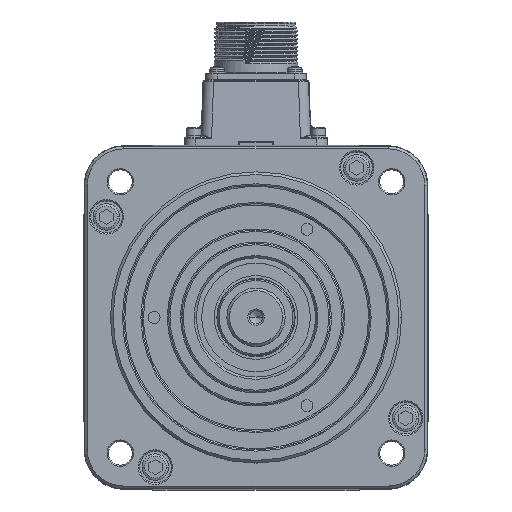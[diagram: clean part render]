
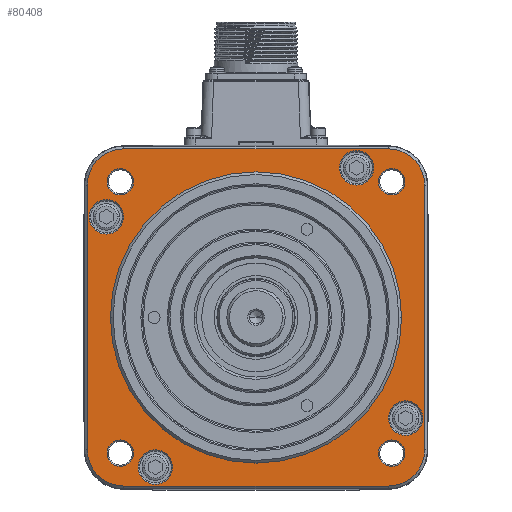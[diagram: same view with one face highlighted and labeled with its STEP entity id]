
A CAD part, top view. The second image highlights one B-rep face of the part: STEP entity #80408.
In plain terms, the highlighted planar face has unit normal (0, 0, 1).
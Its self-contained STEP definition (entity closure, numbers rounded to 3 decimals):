
#20684=DIRECTION('',(0.,1.,0.));
#20685=VECTOR('',#20684,100.);
#20686=CARTESIAN_POINT('',(63.686,-50.,25.));
#20687=LINE('',#20686,#20685);
#20791=CARTESIAN_POINT('',(50.,50.,25.));
#20792=DIRECTION('',(0.,0.,-1.));
#20793=DIRECTION('',(0.,1.,0.));
#20794=AXIS2_PLACEMENT_3D('',#20791,#20792,#20793);
#20796=CARTESIAN_POINT('',(50.,-50.,25.));
#20797=DIRECTION('',(0.,0.,-1.));
#20798=DIRECTION('',(1.,0.,0.));
#20799=AXIS2_PLACEMENT_3D('',#20796,#20797,#20798);
#20801=CARTESIAN_POINT('',(-50.,-50.,25.));
#20802=DIRECTION('',(0.,0.,-1.));
#20803=DIRECTION('',(0.,-1.,0.));
#20804=AXIS2_PLACEMENT_3D('',#20801,#20802,#20803);
#20806=CARTESIAN_POINT('',(-50.,50.,25.));
#20807=DIRECTION('',(0.,0.,-1.));
#20808=DIRECTION('',(-1.,0.,0.));
#20809=AXIS2_PLACEMENT_3D('',#20806,#20807,#20808);
#20811=CARTESIAN_POINT('',(-56.502,37.997,25.));
#20812=DIRECTION('',(0.,0.,1.));
#20813=DIRECTION('',(-1.,0.,0.));
#20814=AXIS2_PLACEMENT_3D('',#20811,#20812,#20813);
#20816=CARTESIAN_POINT('',(-56.502,37.997,25.));
#20817=DIRECTION('',(0.,0.,1.));
#20818=DIRECTION('',(1.,0.,0.));
#20819=AXIS2_PLACEMENT_3D('',#20816,#20817,#20818);
#20821=CARTESIAN_POINT('',(-37.997,-56.502,25.));
#20822=DIRECTION('',(0.,0.,1.));
#20823=DIRECTION('',(-1.,0.,0.));
#20824=AXIS2_PLACEMENT_3D('',#20821,#20822,#20823);
#20826=CARTESIAN_POINT('',(-37.997,-56.502,25.));
#20827=DIRECTION('',(0.,0.,1.));
#20828=DIRECTION('',(1.,0.,0.));
#20829=AXIS2_PLACEMENT_3D('',#20826,#20827,#20828);
#20831=CARTESIAN_POINT('',(0.,0.,25.));
#20832=DIRECTION('',(0.,0.,1.));
#20833=DIRECTION('',(-1.,0.,0.));
#20834=AXIS2_PLACEMENT_3D('',#20831,#20832,#20833);
#20836=CARTESIAN_POINT('',(0.,0.,25.));
#20837=DIRECTION('',(0.,0.,1.));
#20838=DIRECTION('',(1.,0.,0.));
#20839=AXIS2_PLACEMENT_3D('',#20836,#20837,#20838);
#20841=CARTESIAN_POINT('',(-51.265,51.265,25.));
#20842=DIRECTION('',(0.,0.,1.));
#20843=DIRECTION('',(1.,0.,0.));
#20844=AXIS2_PLACEMENT_3D('',#20841,#20842,#20843);
#20846=CARTESIAN_POINT('',(-51.265,51.265,25.));
#20847=DIRECTION('',(0.,0.,1.));
#20848=DIRECTION('',(-1.,0.,0.));
#20849=AXIS2_PLACEMENT_3D('',#20846,#20847,#20848);
#20851=CARTESIAN_POINT('',(-51.265,-51.265,25.));
#20852=DIRECTION('',(0.,0.,1.));
#20853=DIRECTION('',(1.,0.,0.));
#20854=AXIS2_PLACEMENT_3D('',#20851,#20852,#20853);
#20856=CARTESIAN_POINT('',(-51.265,-51.265,25.));
#20857=DIRECTION('',(0.,0.,1.));
#20858=DIRECTION('',(-1.,0.,0.));
#20859=AXIS2_PLACEMENT_3D('',#20856,#20857,#20858);
#20861=CARTESIAN_POINT('',(51.265,-51.265,25.));
#20862=DIRECTION('',(0.,0.,1.));
#20863=DIRECTION('',(1.,0.,0.));
#20864=AXIS2_PLACEMENT_3D('',#20861,#20862,#20863);
#20866=CARTESIAN_POINT('',(51.265,-51.265,25.));
#20867=DIRECTION('',(0.,0.,1.));
#20868=DIRECTION('',(-1.,0.,0.));
#20869=AXIS2_PLACEMENT_3D('',#20866,#20867,#20868);
#20871=CARTESIAN_POINT('',(51.265,51.265,25.));
#20872=DIRECTION('',(0.,0.,1.));
#20873=DIRECTION('',(1.,0.,0.));
#20874=AXIS2_PLACEMENT_3D('',#20871,#20872,#20873);
#20876=CARTESIAN_POINT('',(51.265,51.265,25.));
#20877=DIRECTION('',(0.,0.,1.));
#20878=DIRECTION('',(-1.,0.,0.));
#20879=AXIS2_PLACEMENT_3D('',#20876,#20877,#20878);
#20881=CARTESIAN_POINT('',(37.997,56.502,25.));
#20882=DIRECTION('',(0.,0.,1.));
#20883=DIRECTION('',(-1.,0.,0.));
#20884=AXIS2_PLACEMENT_3D('',#20881,#20882,#20883);
#20886=CARTESIAN_POINT('',(37.997,56.502,25.));
#20887=DIRECTION('',(0.,0.,1.));
#20888=DIRECTION('',(1.,0.,0.));
#20889=AXIS2_PLACEMENT_3D('',#20886,#20887,#20888);
#20891=CARTESIAN_POINT('',(56.502,-37.997,25.));
#20892=DIRECTION('',(0.,0.,1.));
#20893=DIRECTION('',(-1.,0.,0.));
#20894=AXIS2_PLACEMENT_3D('',#20891,#20892,#20893);
#20896=CARTESIAN_POINT('',(56.502,-37.997,25.));
#20897=DIRECTION('',(0.,0.,1.));
#20898=DIRECTION('',(1.,0.,0.));
#20899=AXIS2_PLACEMENT_3D('',#20896,#20897,#20898);
#20901=DIRECTION('',(1.,0.,0.));
#20902=VECTOR('',#20901,100.);
#20903=CARTESIAN_POINT('',(-50.,-63.686,25.));
#20904=LINE('',#20903,#20902);
#21017=DIRECTION('',(0.,-1.,0.));
#21018=VECTOR('',#21017,100.);
#21019=CARTESIAN_POINT('',(-63.686,50.,25.));
#21020=LINE('',#21019,#21018);
#21133=DIRECTION('',(-1.,0.,0.));
#21134=VECTOR('',#21133,100.);
#21135=CARTESIAN_POINT('',(50.,63.686,25.));
#21136=LINE('',#21135,#21134);
#46477=CARTESIAN_POINT('',(63.686,50.,25.));
#46478=VERTEX_POINT('',#46477);
#46479=CARTESIAN_POINT('',(50.,63.686,25.));
#46480=VERTEX_POINT('',#46479);
#46481=CARTESIAN_POINT('',(63.686,-50.,25.));
#46482=VERTEX_POINT('',#46481);
#46483=CARTESIAN_POINT('',(50.,-63.686,25.));
#46484=VERTEX_POINT('',#46483);
#46497=CARTESIAN_POINT('',(56.265,-51.265,25.));
#46498=CARTESIAN_POINT('',(46.265,-51.265,25.));
#46499=VERTEX_POINT('',#46497);
#46500=VERTEX_POINT('',#46498);
#46501=CARTESIAN_POINT('',(-50.,-63.686,25.));
#46502=VERTEX_POINT('',#46501);
#46503=CARTESIAN_POINT('',(-63.686,-50.,25.));
#46504=VERTEX_POINT('',#46503);
#46505=CARTESIAN_POINT('',(-63.686,50.,25.));
#46506=VERTEX_POINT('',#46505);
#46507=CARTESIAN_POINT('',(-50.,63.686,25.));
#46508=VERTEX_POINT('',#46507);
#46509=CARTESIAN_POINT('',(-63.002,37.997,25.));
#46510=CARTESIAN_POINT('',(-50.002,37.997,25.));
#46511=VERTEX_POINT('',#46509);
#46512=VERTEX_POINT('',#46510);
#46513=CARTESIAN_POINT('',(-44.497,-56.502,25.));
#46514=CARTESIAN_POINT('',(-31.497,-56.502,25.));
#46515=VERTEX_POINT('',#46513);
#46516=VERTEX_POINT('',#46514);
#46517=CARTESIAN_POINT('',(-55.,0.,25.));
#46518=CARTESIAN_POINT('',(55.,0.,25.));
#46519=VERTEX_POINT('',#46517);
#46520=VERTEX_POINT('',#46518);
#46521=CARTESIAN_POINT('',(-46.265,51.265,25.));
#46522=CARTESIAN_POINT('',(-56.265,51.265,25.));
#46523=VERTEX_POINT('',#46521);
#46524=VERTEX_POINT('',#46522);
#46525=CARTESIAN_POINT('',(-46.265,-51.265,25.));
#46526=CARTESIAN_POINT('',(-56.265,-51.265,25.));
#46527=VERTEX_POINT('',#46525);
#46528=VERTEX_POINT('',#46526);
#46529=CARTESIAN_POINT('',(56.265,51.265,25.));
#46530=CARTESIAN_POINT('',(46.265,51.265,25.));
#46531=VERTEX_POINT('',#46529);
#46532=VERTEX_POINT('',#46530);
#46533=CARTESIAN_POINT('',(31.497,56.502,25.));
#46534=CARTESIAN_POINT('',(44.497,56.502,25.));
#46535=VERTEX_POINT('',#46533);
#46536=VERTEX_POINT('',#46534);
#46537=CARTESIAN_POINT('',(50.002,-37.997,25.));
#46538=CARTESIAN_POINT('',(63.002,-37.997,25.));
#46539=VERTEX_POINT('',#46537);
#46540=VERTEX_POINT('',#46538);
#80335=CARTESIAN_POINT('',(0.,0.,25.));
#80336=DIRECTION('',(0.,0.,1.));
#80337=DIRECTION('',(1.,0.,0.));
#80338=AXIS2_PLACEMENT_3D('',#80335,#80336,#80337);
#80339=PLANE('',#80338);
#80340=ORIENTED_EDGE('',*,*,#80121,.T.);
#80341=ORIENTED_EDGE('',*,*,#80143,.F.);
#80342=ORIENTED_EDGE('',*,*,#80165,.T.);
#80344=ORIENTED_EDGE('',*,*,#80343,.F.);
#80346=ORIENTED_EDGE('',*,*,#80345,.T.);
#80348=ORIENTED_EDGE('',*,*,#80347,.F.);
#80350=ORIENTED_EDGE('',*,*,#80349,.T.);
#80352=ORIENTED_EDGE('',*,*,#80351,.F.);
#80353=EDGE_LOOP('',(#80340,#80341,#80342,#80344,#80346,#80348,#80350,#80352));
#80354=FACE_OUTER_BOUND('',#80353,.F.);
#80356=ORIENTED_EDGE('',*,*,#80355,.T.);
#80358=ORIENTED_EDGE('',*,*,#80357,.T.);
#80359=EDGE_LOOP('',(#80356,#80358));
#80360=FACE_BOUND('',#80359,.F.);
#80362=ORIENTED_EDGE('',*,*,#80361,.T.);
#80364=ORIENTED_EDGE('',*,*,#80363,.T.);
#80365=EDGE_LOOP('',(#80362,#80364));
#80366=FACE_BOUND('',#80365,.F.);
#80368=ORIENTED_EDGE('',*,*,#80367,.T.);
#80370=ORIENTED_EDGE('',*,*,#80369,.T.);
#80371=EDGE_LOOP('',(#80368,#80370));
#80372=FACE_BOUND('',#80371,.F.);
#80374=ORIENTED_EDGE('',*,*,#80373,.T.);
#80376=ORIENTED_EDGE('',*,*,#80375,.T.);
#80377=EDGE_LOOP('',(#80374,#80376));
#80378=FACE_BOUND('',#80377,.F.);
#80380=ORIENTED_EDGE('',*,*,#80379,.T.);
#80382=ORIENTED_EDGE('',*,*,#80381,.T.);
#80383=EDGE_LOOP('',(#80380,#80382));
#80384=FACE_BOUND('',#80383,.F.);
#80385=ORIENTED_EDGE('',*,*,#80318,.T.);
#80387=ORIENTED_EDGE('',*,*,#80386,.T.);
#80388=EDGE_LOOP('',(#80385,#80387));
#80389=FACE_BOUND('',#80388,.F.);
#80391=ORIENTED_EDGE('',*,*,#80390,.T.);
#80393=ORIENTED_EDGE('',*,*,#80392,.T.);
#80394=EDGE_LOOP('',(#80391,#80393));
#80395=FACE_BOUND('',#80394,.F.);
#80397=ORIENTED_EDGE('',*,*,#80396,.T.);
#80399=ORIENTED_EDGE('',*,*,#80398,.T.);
#80400=EDGE_LOOP('',(#80397,#80399));
#80401=FACE_BOUND('',#80400,.F.);
#80403=ORIENTED_EDGE('',*,*,#80402,.T.);
#80405=ORIENTED_EDGE('',*,*,#80404,.T.);
#80406=EDGE_LOOP('',(#80403,#80405));
#80407=FACE_BOUND('',#80406,.F.);
#80408=ADVANCED_FACE('',(#80354,#80360,#80366,#80372,#80378,#80384,#80389,
#80395,#80401,#80407),#80339,.T.);
#20795=CIRCLE('',#20794,13.686);
#20800=CIRCLE('',#20799,13.686);
#20805=CIRCLE('',#20804,13.686);
#20810=CIRCLE('',#20809,13.686);
#20815=CIRCLE('',#20814,6.5);
#20820=CIRCLE('',#20819,6.5);
#20825=CIRCLE('',#20824,6.5);
#20830=CIRCLE('',#20829,6.5);
#20835=CIRCLE('',#20834,55.);
#20840=CIRCLE('',#20839,55.);
#20845=CIRCLE('',#20844,5.);
#20850=CIRCLE('',#20849,5.);
#20855=CIRCLE('',#20854,5.);
#20860=CIRCLE('',#20859,5.);
#20865=CIRCLE('',#20864,5.);
#20870=CIRCLE('',#20869,5.);
#20875=CIRCLE('',#20874,5.);
#20880=CIRCLE('',#20879,5.);
#20885=CIRCLE('',#20884,6.5);
#20890=CIRCLE('',#20889,6.5);
#20895=CIRCLE('',#20894,6.5);
#20900=CIRCLE('',#20899,6.5);
#80121=EDGE_CURVE('',#46480,#46478,#20795,.T.);
#80143=EDGE_CURVE('',#46482,#46478,#20687,.T.);
#80165=EDGE_CURVE('',#46482,#46484,#20800,.T.);
#80318=EDGE_CURVE('',#46499,#46500,#20865,.T.);
#80343=EDGE_CURVE('',#46502,#46484,#20904,.T.);
#80345=EDGE_CURVE('',#46502,#46504,#20805,.T.);
#80347=EDGE_CURVE('',#46506,#46504,#21020,.T.);
#80349=EDGE_CURVE('',#46506,#46508,#20810,.T.);
#80351=EDGE_CURVE('',#46480,#46508,#21136,.T.);
#80355=EDGE_CURVE('',#46511,#46512,#20815,.T.);
#80357=EDGE_CURVE('',#46512,#46511,#20820,.T.);
#80361=EDGE_CURVE('',#46515,#46516,#20825,.T.);
#80363=EDGE_CURVE('',#46516,#46515,#20830,.T.);
#80367=EDGE_CURVE('',#46519,#46520,#20835,.T.);
#80369=EDGE_CURVE('',#46520,#46519,#20840,.T.);
#80373=EDGE_CURVE('',#46523,#46524,#20845,.T.);
#80375=EDGE_CURVE('',#46524,#46523,#20850,.T.);
#80379=EDGE_CURVE('',#46527,#46528,#20855,.T.);
#80381=EDGE_CURVE('',#46528,#46527,#20860,.T.);
#80386=EDGE_CURVE('',#46500,#46499,#20870,.T.);
#80390=EDGE_CURVE('',#46531,#46532,#20875,.T.);
#80392=EDGE_CURVE('',#46532,#46531,#20880,.T.);
#80396=EDGE_CURVE('',#46535,#46536,#20885,.T.);
#80398=EDGE_CURVE('',#46536,#46535,#20890,.T.);
#80402=EDGE_CURVE('',#46539,#46540,#20895,.T.);
#80404=EDGE_CURVE('',#46540,#46539,#20900,.T.);
